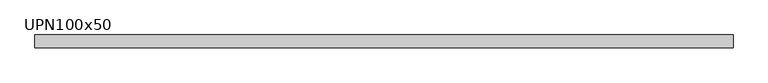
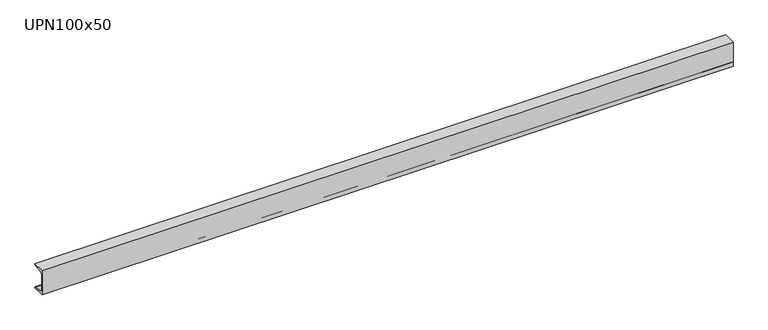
"""IFC4 building model written with IfcOpenShell, lengths in millimetres: beam geometry, M_MC Shapes : UPN100x50."""

from ifc_helpers import new_model, si_unit, point, frame, frame_2d, origin, place, context, project, spatial, polyline, circle_curve, trimmed, segment, composite_curve, outline, extrude, source, transform, mapped, element, save


def upn100x50_af2dad4c(model_context):
    return source(origin(), model_context, "Body", "SweptSolid", [
        extrude(outline(composite_curve([segment(polyline([(-10.9, 50.0), (39.1, 50.0), (39.1, 49.0253247)]), True, "CONTINUOUS"), segment(trimmed(circle_curve(frame_2d((35.15, 49.0253247)), 3.95), [point((39.1, 49.0253247))], [point((35.7993773, 45.1290689))], False, "CARTESIAN"), True, "CONTINUOUS"), segment(polyline([(35.7993773, 45.1290689), (0.2512455, 39.2043685)]), True, "CONTINUOUS"), segment(trimmed(circle_curve(frame_2d((1.55, 31.4118569)), 7.9), [point((0.2512455, 39.2043685))], [point((-6.35, 31.4118569))], True, "CARTESIAN"), True, "CONTINUOUS"), segment(polyline([(-6.35, 31.4118569), (-6.35, -31.4118569)]), True, "CONTINUOUS"), segment(trimmed(circle_curve(frame_2d((1.55, -31.4118569)), 7.9), [point((-6.35, -31.4118569))], [point((0.2512455, -39.2043685))], True, "CARTESIAN"), True, "CONTINUOUS"), segment(polyline([(0.2512455, -39.2043685), (35.7993773, -45.1290689)]), True, "CONTINUOUS"), segment(trimmed(circle_curve(frame_2d((35.15, -49.0253247)), 3.95), [point((35.7993773, -45.1290689))], [point((39.1, -49.0253247))], False, "CARTESIAN"), True, "CONTINUOUS"), segment(polyline([(39.1, -49.0253247), (39.1, -50.0), (-10.9, -50.0), (-10.9, 50.0)]), True, "CONTINUOUS")], self_intersect=False)), frame((-1280.75, 0.0, 0.0), z_axis=(1.0, 0.0, 0.0), x_axis=(0.0, 1.0, 0.0)), (0.0, 0.0, 1.0), 2721.6),
    ])


if __name__ == "__main__":
    model = new_model("IFC4")
    model_context = context("Model", 3, world=origin())
    ifc_project = project(units=[si_unit("LENGTHUNIT", "METRE", prefix="MILLI")], contexts=[model_context])
    site = spatial("IfcSite", under=ifc_project)
    building = spatial("IfcBuilding", under=site)
    placement = place(None, origin())
    upn100x50_shape = upn100x50_af2dad4c(model_context)
    element("IfcBeam", 1, ObjectType="M_MC Shapes : UPN100x50", at=placement, inside=building, context=model_context, shape_type="MappedRepresentation", body=[
        mapped(upn100x50_shape, transform((0.0, 0.0, 0.0), x_axis=(1.0, 0.0, 0.0), y_axis=(0.0, 1.0, 0.0), z_axis=(0.0, 0.0, 1.0))),
    ])
    save(model, "model.ifc")
